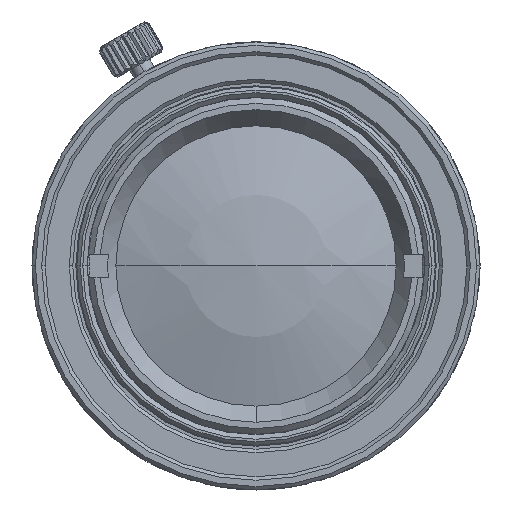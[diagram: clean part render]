
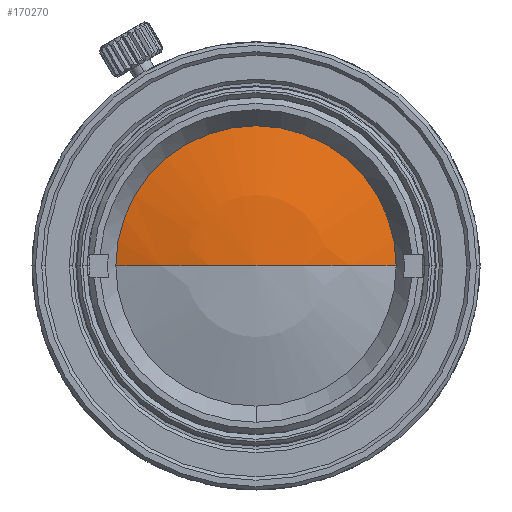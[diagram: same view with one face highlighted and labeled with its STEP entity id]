
A CAD part, left-side view. The second image highlights one B-rep face of the part: STEP entity #170270.
In plain terms, the highlighted spherical face has radius 38.162 mm.
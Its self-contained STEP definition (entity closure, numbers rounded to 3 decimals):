
#155210=CARTESIAN_POINT('',(-31.012,0.,
0.));
#155220=DIRECTION('',(0.,0.,1.));
#155230=DIRECTION('',(-1.,0.,0.));
#155240=AXIS2_PLACEMENT_3D('',#155210,#155220,#155230);
#155250=CIRCLE('',#155240,38.162);
#155260=CARTESIAN_POINT('',(-67.172,12.2,
0.));
#155270=VERTEX_POINT('',#155260);
#155280=CARTESIAN_POINT('',(-69.175,0.,
0.));
#155290=VERTEX_POINT('',#155280);
#155300=EDGE_CURVE('',#155270,#155290,#155250,.T.);
#155320=CARTESIAN_POINT('',(-67.172,-12.2,
0.));
#155330=VERTEX_POINT('',#155320);
#155340=EDGE_CURVE('',#155290,#155330,#155250,.T.);
#155360=CARTESIAN_POINT('',(-67.172,0.,
0.));
#155370=DIRECTION('',(-1.,0.,0.));
#155380=DIRECTION('',(0.,0.,-1.));
#155390=AXIS2_PLACEMENT_3D('',#155360,#155370,#155380);
#155400=CIRCLE('',#155390,12.2);
#157330=CARTESIAN_POINT('',(-67.172,0.,12.2
));
#157340=VERTEX_POINT('',#157330);
#157370=EDGE_CURVE('',#157340,#155270,#155400,.T.);
#167200=EDGE_CURVE('',#155330,#157340,#155400,.T.);
#170160=CARTESIAN_POINT('',(-31.012,0.,
0.));
#170170=DIRECTION('',(1.,0.,0.));
#170180=DIRECTION('',(0.,-1.,0.));
#170190=AXIS2_PLACEMENT_3D('',#170160,#170170,#170180);
#170200=SPHERICAL_SURFACE('',#170190,38.162);
#170210=ORIENTED_EDGE('',*,*,#157370,.T.);
#170220=ORIENTED_EDGE('',*,*,#167200,.T.);
#170230=ORIENTED_EDGE('',*,*,#155340,.T.);
#170240=ORIENTED_EDGE('',*,*,#155300,.T.);
#170250=EDGE_LOOP('',(#170240,#170230,#170220,#170210));
#170260=FACE_OUTER_BOUND('',#170250,.T.);
#170270=ADVANCED_FACE('',(#170260),#170200,.T.);
